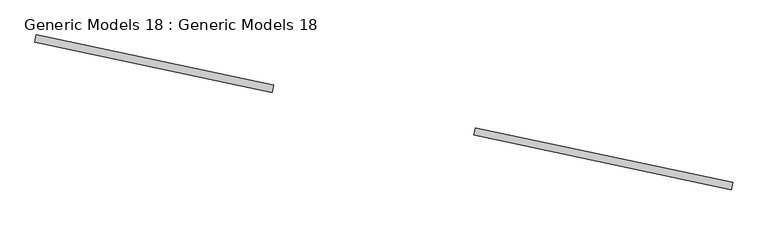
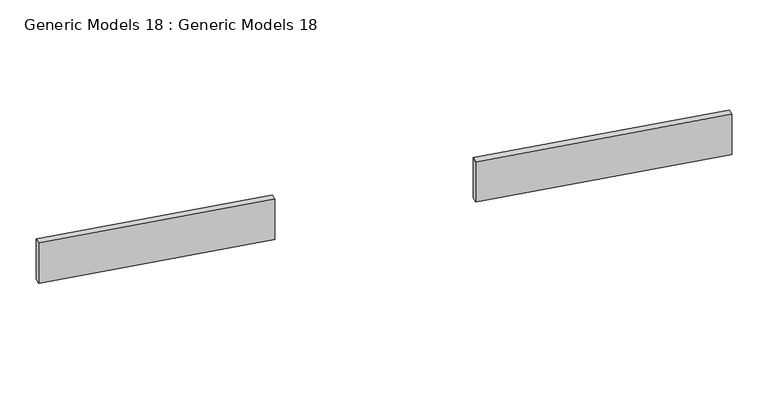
"""IFC4 building model written with IfcOpenShell, lengths in millimetres: proxy geometry, Generic Models 18 : Generic Models 18."""

from ifc_helpers import new_model, si_unit, frame, origin, place, context, project, spatial, polyline, outline, extrude, source, transform, mapped, element, save


def generic_models_18_generic_models_18_185bfeaa(model_context):
    return source(origin(), model_context, "Body", "SweptSolid", [
        extrude(outline(polyline([(508850.5901942, -15235.9035544), (505109.1756214, -14440.641337), (505131.4479981, -14335.8580433), (508872.8625709, -15131.1202607), (508850.5901942, -15235.9035544)])), frame((0.0, 0.0, 1300.0), z_axis=(0.0, 0.0, 1.0), x_axis=(1.0, 0.0, 0.0)), (0.0, 0.0, 1.0), 700.0),
        extrude(outline(polyline([(502174.7328192, -13816.9062646), (498726.7625267, -13084.0175544), (498749.0349033, -12979.2342607), (502197.0051959, -13712.1229708), (502174.7328192, -13816.9062646)])), frame((0.0, 0.0, 1300.0), z_axis=(0.0, 0.0, 1.0), x_axis=(1.0, 0.0, 0.0)), (0.0, 0.0, 1.0), 700.0),
    ])


if __name__ == "__main__":
    model = new_model("IFC4")
    model_context = context("Model", 3, world=origin())
    ifc_project = project(units=[si_unit("LENGTHUNIT", "METRE", prefix="MILLI")], contexts=[model_context])
    site = spatial("IfcSite", under=ifc_project)
    building = spatial("IfcBuilding", under=site)
    placement = place(None, origin())
    generic_models_18_generic_models_18_shape = generic_models_18_generic_models_18_185bfeaa(model_context)
    element("IfcBuildingElementProxy", 1, Name="Generic Models 18 : Generic Models 18", ObjectType="Generic Models 18 : Generic Models 18", at=placement, inside=building, context=model_context, shape_type="MappedRepresentation", body=[
        mapped(generic_models_18_generic_models_18_shape, transform((0.0, 0.0, 0.0), x_axis=(1.0, 0.0, 0.0), y_axis=(0.0, 1.0, 0.0), z_axis=(0.0, 0.0, 1.0))),
    ])
    save(model, "model.ifc")
